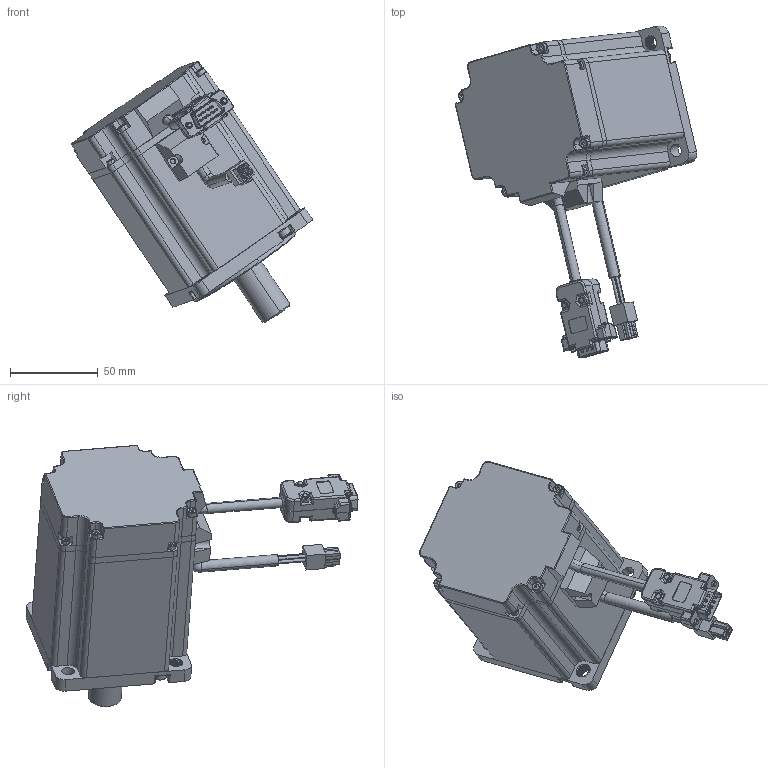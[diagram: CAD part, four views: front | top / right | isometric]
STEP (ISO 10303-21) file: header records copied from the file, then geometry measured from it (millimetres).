
FILE_DESCRIPTION (( 'STEP AP214' ), '1' );
FILE_NAME ('80BST-C03230 STP.STEP', '2022-01-20T08:05:17', ( '' ), ( '' ), 'SwSTEP 2.0', 'SolidWorks 2020', '' );
FILE_SCHEMA (( 'AUTOMOTIVE_DESIGN' ));
Length unit declared in the file: millimetre
Products named in the file (28): 43782_13; 43782_11; 60BST惕掅; 萇儂盄; 43782_06; 43782_12; 60BST綴欶堤盄; 43782_05; hexagon socket head cap screws gb_GB_FASTENER_SCREWS_HSHCS M4X16-N; 43782_02; hexagon socket head cap screws gb_GB_FASTENER_SCREWS_HSHCS M2.5X4-N; 43782_03; 43782_09; 60BST堤粣; 43782_01; 43782_08; Plastika za DB9; 43782_10; 4R; 43782_07; hexagon socket head cap screws gb_GB_FASTENER_SCREWS_HSHCS M3X20-N; 43782; DB9 in plastic case - cable; 160BST-ZC; 43782_04; 80BST-C03230 STP; 60ヶ傷; 等揤盄裔
Assembly tree (36 placements, depth 4):
  80BST-C03230 STP
    60BST惕掅
    60BST綴欶堤盄
    60BST堤粣
    60ヶ傷
    hexagon socket head cap screws gb_GB_FASTENER_SCREWS_HSHCS M2.5X4-N  x4
    hexagon socket head cap screws gb_GB_FASTENER_SCREWS_HSHCS M3X20-N  x4
    160BST-ZC
    萇儂盄
    DB9 in plastic case - cable
      Plastika za DB9
      43782
        43782_13
        43782_12
        43782_11
        43782_10
        43782_09
        43782_08
        43782_07
        43782_06
        43782_05
        43782_04
        43782_03
        43782_02
        43782_01
    4R
    等揤盄裔
    hexagon socket head cap screws gb_GB_FASTENER_SCREWS_HSHCS M4X16-N  x4
Bounding box: 137.97 x 189.64 x 149.26 mm (x, y, z)
Volume: 646167.4 mm3; surface area: 109048.4 mm2
Topology: 46 solids, 46 shells, 1709 faces, 4245 edges, 2618 vertices
Faces by surface type: plane 758, cylinder 696, cone 105, bspline 99, torus 43, sphere 8
Entity records: 60459 total; most frequent: CARTESIAN_POINT 12586, DIRECTION 7537, ORIENTED_EDGE 7278, EDGE_CURVE 3639, AXIS2_PLACEMENT_3D 2702, VERTEX_POINT 2321, VECTOR 2133, LINE 2133
